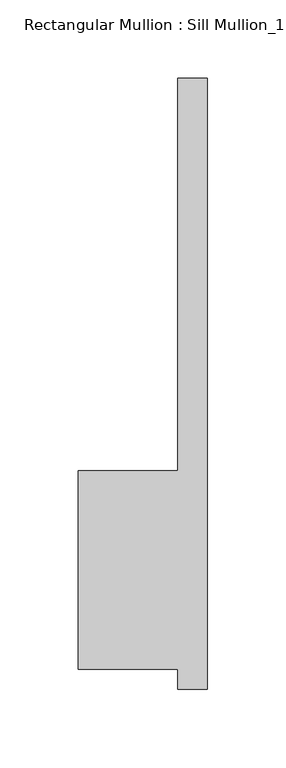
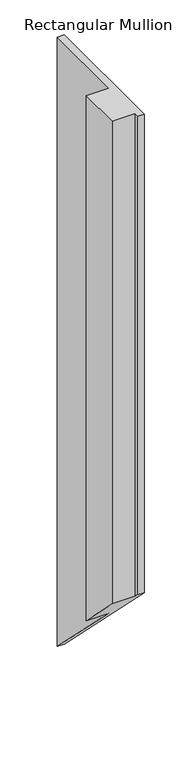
"""IFC4 building model written with IfcOpenShell, lengths in millimetres: member geometry."""

import ifcopenshell
import ifcopenshell.guid

model = None  # the IFC model being written
_history = None  # IfcOwnerHistory: only IFC2X3 demands one
_inside = {}  # id of a spatial element -> (the spatial element, [elements in it])
_under = {}  # id of a project, library or spatial element -> (it, [spatial elements below it])
_declared = {}  # id of a project -> (the project, [libraries it declares])
_typed = {}  # id of a type object -> (the type object, [elements of that type])
_made_of = {}  # id of a material, layer set ... -> (it, [elements and type objects made of it])


def new_model(schema):
    """Start an empty IFC model of exactly this schema.

    Asked for "IFC4X3", IfcOpenShell would pick the latest addendum, in which some entities
    have other attributes; the version numbers below select the first issue.
    IFC2X3 requires an IfcOwnerHistory on every rooted entity: one is made here for all.
    """
    global model, _history
    if schema == "IFC4X3":
        model = ifcopenshell.file(schema_version=(4, 3, 0, 0))
    else:
        model = ifcopenshell.file(schema=schema)
    _inside.clear()
    _under.clear()
    _declared.clear()
    _typed.clear()
    _made_of.clear()
    _history = None
    if model.schema == "IFC2X3":
        org = make("IfcOrganization", Name="unknown")
        user = make(
            "IfcPersonAndOrganization",
            ThePerson=make("IfcPerson", FamilyName="unknown"),
            TheOrganization=org,
        )
        app = make(
            "IfcApplication",
            ApplicationDeveloper=org,
            Version="unknown",
            ApplicationFullName="unknown",
            ApplicationIdentifier="unknown",
        )
        _history = make(
            "IfcOwnerHistory",
            OwningUser=user,
            OwningApplication=app,
            ChangeAction="ADDED",
            CreationDate=0,
        )
    return model


def make(cls, **values):
    """One entity of the class cls with the attributes given. An attribute that is None is left unset."""
    return model.create_entity(
        cls, **{name: value for name, value in values.items() if value is not None}
    )


def rooted(cls, **values):
    """An entity with a GlobalId (a new one), such as an element, a storey or a relation."""
    return make(cls, GlobalId=ifcopenshell.guid.new(), OwnerHistory=_history, **values)


def si_unit(unit_type, name, prefix=None):
    """IfcSIUnit, for example si_unit("LENGTHUNIT", "METRE", prefix="MILLI")."""
    return make("IfcSIUnit", UnitType=unit_type, Prefix=prefix, Name=name)


def assignment(units):
    """IfcUnitAssignment: the units of a project."""
    return None if units is None else make("IfcUnitAssignment", Units=units)


def point(xyz):
    """IfcCartesianPoint."""
    return None if xyz is None else make("IfcCartesianPoint", Coordinates=xyz)


def direction(xyz):
    """IfcDirection."""
    return None if xyz is None else make("IfcDirection", DirectionRatios=xyz)


def frame(location, z_axis=None, x_axis=None):
    """IfcAxis2Placement3D, a coordinate frame: its origin and axes. An axis left out is left unset."""
    return make(
        "IfcAxis2Placement3D",
        Location=point(location),
        Axis=direction(z_axis),
        RefDirection=direction(x_axis),
    )


def origin():
    """The frame at (0, 0, 0) with its axes left unset."""
    return frame((0.0, 0.0, 0.0))


def place(relative_to, where):
    """IfcLocalPlacement: puts the frame where relative to a parent placement (None: the world)."""
    return make(
        "IfcLocalPlacement", PlacementRelTo=relative_to, RelativePlacement=where
    )


def context(
    kind, dimensions, precision=None, world=None, true_north=None, identifier=None
):
    """IfcGeometricRepresentationContext, for example the 3D "Model" context."""
    return make(
        "IfcGeometricRepresentationContext",
        ContextIdentifier=identifier,
        ContextType=kind,
        CoordinateSpaceDimension=dimensions,
        Precision=precision,
        WorldCoordinateSystem=world,
        TrueNorth=true_north,
    )


def project(units=None, contexts=None):
    """IfcProject with its units and contexts."""
    return rooted(
        "IfcProject",
        Name="project",
        RepresentationContexts=contexts,
        UnitsInContext=assignment(units),
    )


def spatial(cls, under=None, at=None, **own):
    """A site, building, storey or space (cls), placed at a placement, below another one or the project."""
    s = rooted(cls, ObjectPlacement=at, **own)
    if under is not None:
        _under.setdefault(under.id(), (under, []))[1].append(s)
    return s


def faces_of(points, faces, orient=None, outer=None):
    """IfcFace entities. A face is a list of loops; a loop is a list of indices into points, from 0.

    orient and outer hold one flag for each loop. By default every Orientation is true, the
    first loop of a face is its IfcFaceOuterBound and the others are IfcFaceBound.
    """
    made = []
    for i, loops in enumerate(faces):
        bounds = []
        for j, loop in enumerate(loops):
            is_outer = j == 0 if outer is None else outer[i][j]
            bounds.append(
                make(
                    "IfcFaceOuterBound" if is_outer else "IfcFaceBound",
                    Bound=make("IfcPolyLoop", Polygon=[points[k] for k in loop]),
                    Orientation=True if orient is None else orient[i][j],
                )
            )
        made.append(make("IfcFace", Bounds=bounds))
    return made


def faceted_brep(points, faces, orient=None, outer=None, voids=None):
    """IfcFacetedBrep: a solid bounded by flat faces; with voids (closed shells), ...WithVoids."""
    shared = [point(p) for p in points]
    hull = make("IfcClosedShell", CfsFaces=faces_of(shared, faces, orient, outer))
    if voids is None:
        return make("IfcFacetedBrep", Outer=hull)
    return make(
        "IfcFacetedBrepWithVoids",
        Outer=hull,
        Voids=[
            make(cls, CfsFaces=faces_of(shared, fs, o, b)) for cls, fs, o, b in voids
        ],
    )


def shape(context_of_items, identifier, shape_type, items):
    """IfcShapeRepresentation: the items that make up one representation, for example the "Body"."""
    return make(
        "IfcShapeRepresentation",
        ContextOfItems=context_of_items,
        RepresentationIdentifier=identifier,
        RepresentationType=shape_type,
        Items=items,
    )


def source(mapping_origin, context_of_items, identifier, shape_type, items):
    """IfcRepresentationMap: a shape defined once, which mapped items show again and again."""
    return make(
        "IfcRepresentationMap",
        MappingOrigin=mapping_origin,
        MappedRepresentation=shape(context_of_items, identifier, shape_type, items),
    )


def transform(
    local_origin,
    x_axis=None,
    y_axis=None,
    z_axis=None,
    scale=None,
    scale2=None,
    scale3=None,
    uniform=True,
):
    """IfcCartesianTransformationOperator3D, or its non-uniform kind. x_axis, y_axis, z_axis: its Axis1, 2, 3."""
    if uniform:
        return make(
            "IfcCartesianTransformationOperator3D",
            Axis1=direction(x_axis),
            Axis2=direction(y_axis),
            LocalOrigin=point(local_origin),
            Scale=scale,
            Axis3=direction(z_axis),
        )
    return make(
        "IfcCartesianTransformationOperator3DnonUniform",
        Axis1=direction(x_axis),
        Axis2=direction(y_axis),
        LocalOrigin=point(local_origin),
        Scale=scale,
        Axis3=direction(z_axis),
        Scale2=scale2,
        Scale3=scale3,
    )


def mapped(mapping_source, mapping_target):
    """IfcMappedItem: shows the shape of a source again, moved by a transform."""
    return make(
        "IfcMappedItem", MappingSource=mapping_source, MappingTarget=mapping_target
    )


def made_of(thing, what):
    """Note that an element or type object is made of a material, layer set ...; save() writes the relation."""
    if what is not None:
        _made_of.setdefault(what.id(), (what, []))[1].append(thing)
    return thing


def element(
    cls,
    number,
    at=None,
    inside=None,
    cuts=None,
    type_object=None,
    material=None,
    context=None,
    identifier="Body",
    shape_type=None,
    held_by="IfcProductDefinitionShape",
    body=None,
    shapes=None,
    **own,
):
    """One element of the class cls, such as IfcWall. Its Tag is "e" and its number.

    at: its placement. inside: the storey or other place that contains it. cuts: it is an
    opening in that element (IfcRelVoidsElement). A single representation is given by context,
    identifier, shape_type and body (its items); several are given by shapes. held_by: the class
    of the entity that holds the representations. save() writes the other relations.
    """
    e = rooted(cls, Tag="e%d" % number, ObjectPlacement=at, **own)
    if body is not None:
        shapes = [shape(context, identifier, shape_type, body)]
    if shapes is not None:
        e.Representation = make(held_by, Representations=shapes)
    if inside is not None:
        _inside.setdefault(inside.id(), (inside, []))[1].append(e)
    if cuts is not None:
        rooted(
            "IfcRelVoidsElement", RelatingBuildingElement=cuts, RelatedOpeningElement=e
        )
    if type_object is not None:
        _typed.setdefault(type_object.id(), (type_object, []))[1].append(e)
    return made_of(e, material)


def aggregate(whole, parts):
    """IfcRelAggregates: a whole, such as a stair, and the parts it consists of."""
    return rooted("IfcRelAggregates", RelatingObject=whole, RelatedObjects=parts)


def save(model, path):
    """Write the relations noted so far, then the file.

    IfcRelAggregates (storeys below a building ...), IfcRelContainedInSpatialStructure (elements
    in a storey), IfcRelDefinesByType, IfcRelAssociatesMaterial and IfcRelDeclares: one each for
    every whole, place, type object, material and project.
    """
    for whole, parts in _under.values():
        aggregate(whole, parts)
    for where, things in _inside.values():
        rooted(
            "IfcRelContainedInSpatialStructure",
            RelatedElements=things,
            RelatingStructure=where,
        )
    for kind, things in _typed.values():
        rooted("IfcRelDefinesByType", RelatedObjects=things, RelatingType=kind)
    for what, things in _made_of.values():
        rooted("IfcRelAssociatesMaterial", RelatedObjects=things, RelatingMaterial=what)
    for by, libraries in _declared.values():
        rooted("IfcRelDeclares", RelatingContext=by, RelatedDefinitions=libraries)
    model.write(path)


def member_891b2922(model_context):
    return source(origin(), model_context, "Body", "Brep", [
        faceted_brep([(-82.55, 50.8, 0.0), (-82.55, -76.2, 0.0), (-19.05, -76.2, 0.0), (-19.05, -88.9, 0.0), (0.0, -88.9, 0.0), (0.0, 301.625, 0.0), (-19.05, 301.625, 0.0), (-19.05, 50.8, 0.0), (-82.55, 50.8, -1567.0892857), (-82.55, -76.2, -1440.0892857), (-19.05, -76.2, -1440.0892857), (-19.05, -88.9, -1427.3892857), (0.0, -88.9, -1427.3892857), (0.0, 301.625, -1817.9142857), (-19.05, 301.625, -1817.9142857), (-19.05, 50.8, -1567.0892857)], [[[0, 1, 2, 3, 4, 5, 6, 7]], [[1, 0, 8, 9]], [[2, 1, 9, 10]], [[3, 2, 10, 11]], [[4, 3, 11, 12]], [[5, 4, 12, 13]], [[6, 5, 13, 14]], [[7, 6, 14, 15]], [[0, 7, 15, 8]], [[8, 15, 14, 13, 12, 11, 10, 9]]]),
    ])


if __name__ == "__main__":
    model = new_model("IFC4")
    model_context = context("Model", 3, world=origin())
    ifc_project = project(units=[si_unit("LENGTHUNIT", "METRE", prefix="MILLI")], contexts=[model_context])
    site = spatial("IfcSite", under=ifc_project)
    building = spatial("IfcBuilding", under=site)
    placement = place(None, origin())
    member_shape = member_891b2922(model_context)
    element("IfcMember", 1, ObjectType="Rectangular Mullion : Sill Mullion_15\" thick wall", at=placement, inside=building, context=model_context, shape_type="MappedRepresentation", body=[
        mapped(member_shape, transform((0.0, 0.0, 0.0), x_axis=(1.0, 0.0, 0.0), y_axis=(0.0, 1.0, 0.0), z_axis=(0.0, 0.0, 1.0))),
    ])
    save(model, "model.ifc")
